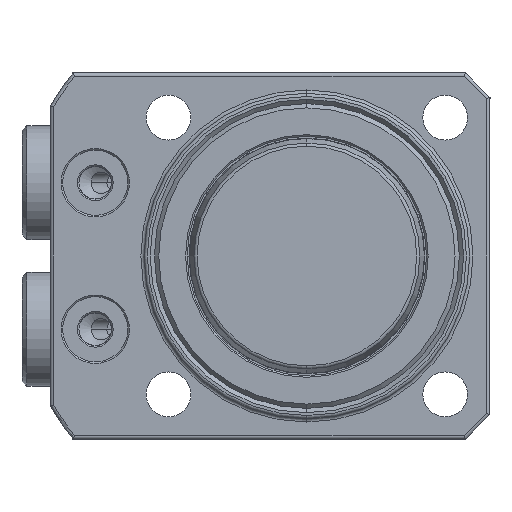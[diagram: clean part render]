
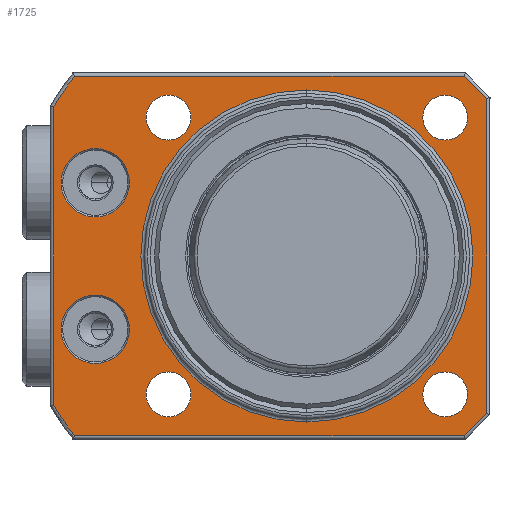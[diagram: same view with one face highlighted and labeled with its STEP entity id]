
A CAD part, front view. The second image highlights one B-rep face of the part: STEP entity #1725.
In plain terms, the highlighted planar face has unit normal (0, -1, 0) as drawn and (1, 0, 0) by its records, which use the part's own axes.
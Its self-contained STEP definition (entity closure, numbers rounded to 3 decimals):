
#803=FACE_BOUND('',#2192,.T.);
#804=FACE_BOUND('',#2193,.T.);
#805=FACE_BOUND('',#2194,.T.);
#806=FACE_BOUND('',#2195,.T.);
#807=FACE_BOUND('',#2196,.T.);
#808=FACE_BOUND('',#2197,.T.);
#809=FACE_BOUND('',#2198,.T.);
#810=FACE_BOUND('',#2199,.T.);
#1099=PLANE('',#4824);
#1339=LINE('',#7579,#1540);
#1340=LINE('',#7582,#1541);
#1341=LINE('',#7584,#1542);
#1342=LINE('',#7588,#1543);
#1343=LINE('',#7592,#1544);
#1344=LINE('',#7594,#1545);
#1540=VECTOR('',#5786,1.);
#1541=VECTOR('',#5787,1.);
#1542=VECTOR('',#5788,1.);
#1543=VECTOR('',#5791,1.);
#1544=VECTOR('',#5794,1.);
#1545=VECTOR('',#5795,1.);
#1725=ADVANCED_FACE('',(#803,#804,#805,#806,#807,#808,#809,#810),#1099,
 .F.);
#2192=EDGE_LOOP('',(#3001,#3002));
#2193=EDGE_LOOP('',(#3003,#3004));
#2194=EDGE_LOOP('',(#3005,#3006,#3007,#3008,#3009,#3010,#3011,#3012));
#2195=EDGE_LOOP('',(#3013,#3014));
#2196=EDGE_LOOP('',(#3015,#3016));
#2197=EDGE_LOOP('',(#3017,#3018));
#2198=EDGE_LOOP('',(#3019,#3020));
#2199=EDGE_LOOP('',(#3021,#3022));
#3001=ORIENTED_EDGE('',*,*,#3972,.T.);
#3002=ORIENTED_EDGE('',*,*,#4131,.T.);
#3003=ORIENTED_EDGE('',*,*,#3967,.T.);
#3004=ORIENTED_EDGE('',*,*,#4132,.T.);
#3005=ORIENTED_EDGE('',*,*,#4133,.T.);
#3006=ORIENTED_EDGE('',*,*,#4134,.T.);
#3007=ORIENTED_EDGE('',*,*,#4135,.T.);
#3008=ORIENTED_EDGE('',*,*,#4136,.T.);
#3009=ORIENTED_EDGE('',*,*,#4137,.T.);
#3010=ORIENTED_EDGE('',*,*,#4138,.T.);
#3011=ORIENTED_EDGE('',*,*,#4139,.T.);
#3012=ORIENTED_EDGE('',*,*,#4140,.T.);
#3013=ORIENTED_EDGE('',*,*,#4141,.T.);
#3014=ORIENTED_EDGE('',*,*,#3989,.T.);
#3015=ORIENTED_EDGE('',*,*,#4142,.T.);
#3016=ORIENTED_EDGE('',*,*,#4078,.T.);
#3017=ORIENTED_EDGE('',*,*,#4143,.T.);
#3018=ORIENTED_EDGE('',*,*,#4086,.T.);
#3019=ORIENTED_EDGE('',*,*,#4144,.T.);
#3020=ORIENTED_EDGE('',*,*,#4094,.T.);
#3021=ORIENTED_EDGE('',*,*,#4145,.T.);
#3022=ORIENTED_EDGE('',*,*,#4102,.T.);
#3532=VERTEX_POINT('',#7034);
#3533=VERTEX_POINT('',#7036);
#3537=VERTEX_POINT('',#7045);
#3538=VERTEX_POINT('',#7047);
#3554=VERTEX_POINT('',#7084);
#3555=VERTEX_POINT('',#7085);
#3624=VERTEX_POINT('',#7406);
#3625=VERTEX_POINT('',#7407);
#3632=VERTEX_POINT('',#7433);
#3633=VERTEX_POINT('',#7434);
#3640=VERTEX_POINT('',#7460);
#3641=VERTEX_POINT('',#7461);
#3648=VERTEX_POINT('',#7487);
#3649=VERTEX_POINT('',#7488);
#3664=VERTEX_POINT('',#7580);
#3665=VERTEX_POINT('',#7581);
#3666=VERTEX_POINT('',#7583);
#3667=VERTEX_POINT('',#7585);
#3668=VERTEX_POINT('',#7587);
#3669=VERTEX_POINT('',#7589);
#3670=VERTEX_POINT('',#7591);
#3671=VERTEX_POINT('',#7593);
#3967=EDGE_CURVE('',#3533,#3532,#4354,.T.);
#3972=EDGE_CURVE('',#3538,#3537,#4357,.T.);
#3989=EDGE_CURVE('',#3554,#3555,#4369,.T.);
#4078=EDGE_CURVE('',#3624,#3625,#4409,.T.);
#4086=EDGE_CURVE('',#3632,#3633,#4412,.T.);
#4094=EDGE_CURVE('',#3640,#3641,#4415,.T.);
#4102=EDGE_CURVE('',#3648,#3649,#4418,.T.);
#4131=EDGE_CURVE('',#3537,#3538,#4430,.T.);
#4132=EDGE_CURVE('',#3532,#3533,#4431,.T.);
#4133=EDGE_CURVE('',#3664,#3665,#1339,.T.);
#4134=EDGE_CURVE('',#3665,#3666,#1340,.T.);
#4135=EDGE_CURVE('',#3666,#3667,#1341,.T.);
#4136=EDGE_CURVE('',#3667,#3668,#4432,.T.);
#4137=EDGE_CURVE('',#3668,#3669,#1342,.T.);
#4138=EDGE_CURVE('',#3669,#3670,#4433,.T.);
#4139=EDGE_CURVE('',#3670,#3671,#1343,.T.);
#4140=EDGE_CURVE('',#3671,#3664,#1344,.T.);
#4141=EDGE_CURVE('',#3555,#3554,#4434,.T.);
#4142=EDGE_CURVE('',#3625,#3624,#4435,.T.);
#4143=EDGE_CURVE('',#3633,#3632,#4436,.T.);
#4144=EDGE_CURVE('',#3641,#3640,#4437,.T.);
#4145=EDGE_CURVE('',#3649,#3648,#4438,.T.);
#4354=CIRCLE('',#4699,4.2);
#4357=CIRCLE('',#4703,4.2);
#4369=CIRCLE('',#4719,20.4);
#4409=CIRCLE('',#4781,2.75);
#4412=CIRCLE('',#4786,2.75);
#4415=CIRCLE('',#4791,2.75);
#4418=CIRCLE('',#4796,2.75);
#4430=CIRCLE('',#4815,4.2);
#4431=CIRCLE('',#4816,4.2);
#4432=CIRCLE('',#4817,36.1);
#4433=CIRCLE('',#4818,36.1);
#4434=CIRCLE('',#4819,20.4);
#4435=CIRCLE('',#4820,2.75);
#4436=CIRCLE('',#4821,2.75);
#4437=CIRCLE('',#4822,2.75);
#4438=CIRCLE('',#4823,2.75);
#4699=AXIS2_PLACEMENT_3D('',#7035,#5484,#5485);
#4703=AXIS2_PLACEMENT_3D('',#7046,#5494,#5495);
#4719=AXIS2_PLACEMENT_3D('',#7083,#5531,#5532);
#4781=AXIS2_PLACEMENT_3D('',#7405,#5693,#5694);
#4786=AXIS2_PLACEMENT_3D('',#7432,#5707,#5708);
#4791=AXIS2_PLACEMENT_3D('',#7459,#5721,#5722);
#4796=AXIS2_PLACEMENT_3D('',#7486,#5735,#5736);
#4815=AXIS2_PLACEMENT_3D('',#7577,#5782,#5783);
#4816=AXIS2_PLACEMENT_3D('',#7578,#5784,#5785);
#4817=AXIS2_PLACEMENT_3D('',#7586,#5789,#5790);
#4818=AXIS2_PLACEMENT_3D('',#7590,#5792,#5793);
#4819=AXIS2_PLACEMENT_3D('',#7595,#5796,#5797);
#4820=AXIS2_PLACEMENT_3D('',#7596,#5798,#5799);
#4821=AXIS2_PLACEMENT_3D('',#7597,#5800,#5801);
#4822=AXIS2_PLACEMENT_3D('',#7598,#5802,#5803);
#4823=AXIS2_PLACEMENT_3D('',#7599,#5804,#5805);
#4824=AXIS2_PLACEMENT_3D('',#7600,#5806,#5807);
#5484=DIRECTION('',(-1.,0.,0.));
#5485=DIRECTION('',(0.,0.,1.));
#5494=DIRECTION('',(-1.,0.,0.));
#5495=DIRECTION('',(0.,0.,1.));
#5531=DIRECTION('',(-1.,0.,0.));
#5532=DIRECTION('',(0.,0.,1.));
#5693=DIRECTION('',(-1.,0.,0.));
#5694=DIRECTION('',(0.,0.,1.));
#5707=DIRECTION('',(-1.,0.,0.));
#5708=DIRECTION('',(0.,0.,1.));
#5721=DIRECTION('',(-1.,0.,0.));
#5722=DIRECTION('',(0.,0.,1.));
#5735=DIRECTION('',(-1.,0.,0.));
#5736=DIRECTION('',(0.,0.,1.));
#5782=DIRECTION('',(-1.,0.,0.));
#5783=DIRECTION('',(0.,0.,1.));
#5784=DIRECTION('',(-1.,0.,0.));
#5785=DIRECTION('',(0.,0.,1.));
#5786=DIRECTION('',(0.,0.,1.));
#5787=DIRECTION('',(0.,-0.707,0.707));
#5788=DIRECTION('',(0.,-1.,0.));
#5789=DIRECTION('',(1.,0.,0.));
#5790=DIRECTION('',(0.,0.,1.));
#5791=DIRECTION('',(0.,0.,-1.));
#5792=DIRECTION('',(1.,0.,0.));
#5793=DIRECTION('',(0.,0.,1.));
#5794=DIRECTION('',(0.,1.,0.));
#5795=DIRECTION('',(0.,0.707,0.707));
#5796=DIRECTION('',(-1.,0.,0.));
#5797=DIRECTION('',(0.,0.,1.));
#5798=DIRECTION('',(-1.,0.,0.));
#5799=DIRECTION('',(0.,0.,1.));
#5800=DIRECTION('',(-1.,0.,0.));
#5801=DIRECTION('',(0.,0.,1.));
#5802=DIRECTION('',(-1.,0.,0.));
#5803=DIRECTION('',(0.,0.,1.));
#5804=DIRECTION('',(-1.,0.,0.));
#5805=DIRECTION('',(0.,0.,1.));
#5806=DIRECTION('',(-1.,0.,0.));
#5807=DIRECTION('',(0.,0.,-1.));
#7034=CARTESIAN_POINT('',(0.,-26.,13.2));
#7035=CARTESIAN_POINT('',(0.,-26.,9.));
#7036=CARTESIAN_POINT('',(0.,-26.,4.8));
#7045=CARTESIAN_POINT('',(0.,-26.,-4.8));
#7046=CARTESIAN_POINT('',(0.,-26.,-9.));
#7047=CARTESIAN_POINT('',(0.,-26.,-13.2));
#7083=CARTESIAN_POINT('',(0.,0.,0.));
#7084=CARTESIAN_POINT('',(0.,0.,-20.4));
#7085=CARTESIAN_POINT('',(0.,0.,20.4));
#7405=CARTESIAN_POINT('',(0.,17.,-17.));
#7406=CARTESIAN_POINT('',(0.,17.,-19.75));
#7407=CARTESIAN_POINT('',(0.,17.,-14.25));
#7432=CARTESIAN_POINT('',(0.,17.,17.));
#7433=CARTESIAN_POINT('',(0.,17.,14.25));
#7434=CARTESIAN_POINT('',(0.,17.,19.75));
#7459=CARTESIAN_POINT('',(0.,-17.,17.));
#7460=CARTESIAN_POINT('',(0.,-17.,14.25));
#7461=CARTESIAN_POINT('',(0.,-17.,19.75));
#7486=CARTESIAN_POINT('',(0.,-17.,-17.));
#7487=CARTESIAN_POINT('',(0.,-17.,-19.75));
#7488=CARTESIAN_POINT('',(0.,-17.,-14.25));
#7577=CARTESIAN_POINT('',(0.,-26.,-9.));
#7578=CARTESIAN_POINT('',(0.,-26.,9.));
#7579=CARTESIAN_POINT('',(0.,22.1,19.5));
#7580=CARTESIAN_POINT('',(0.,22.1,-19.334));
#7581=CARTESIAN_POINT('',(0.,22.1,19.334));
#7582=CARTESIAN_POINT('',(0.,19.217,22.217));
#7583=CARTESIAN_POINT('',(0.,19.334,22.1));
#7584=CARTESIAN_POINT('',(0.,-28.74,22.1));
#7585=CARTESIAN_POINT('',(0.,-28.545,22.1));
#7586=CARTESIAN_POINT('',(0.,0.,0.));
#7587=CARTESIAN_POINT('',(0.,-31.1,18.33));
#7588=CARTESIAN_POINT('',(0.,-31.1,-18.439));
#7589=CARTESIAN_POINT('',(0.,-31.1,-18.33));
#7590=CARTESIAN_POINT('',(0.,0.,0.));
#7591=CARTESIAN_POINT('',(0.,-28.545,-22.1));
#7592=CARTESIAN_POINT('',(0.,19.5,-22.1));
#7593=CARTESIAN_POINT('',(0.,19.334,-22.1));
#7594=CARTESIAN_POINT('',(0.,22.217,-19.217));
#7595=CARTESIAN_POINT('',(0.,0.,0.));
#7596=CARTESIAN_POINT('',(0.,17.,-17.));
#7597=CARTESIAN_POINT('',(0.,17.,17.));
#7598=CARTESIAN_POINT('',(0.,-17.,17.));
#7599=CARTESIAN_POINT('',(0.,-17.,-17.));
#7600=CARTESIAN_POINT('',(0.,0.,0.));
